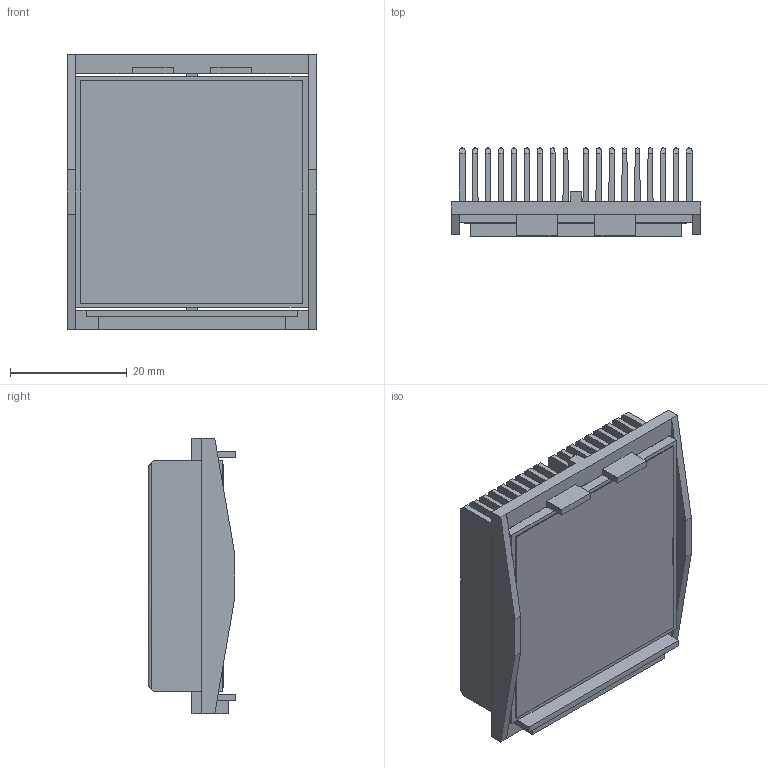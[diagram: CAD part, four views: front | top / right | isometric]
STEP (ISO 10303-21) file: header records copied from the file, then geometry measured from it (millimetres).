
FILE_DESCRIPTION (( 'STEP AP214' ), '1' );
FILE_NAME ('INL40001-13-1.7Y.STEP', '2023-03-01T17:13:28', ( '' ), ( '' ), 'SwSTEP 2.0', 'SolidWorks 2020', '' );
FILE_SCHEMA (( 'AUTOMOTIVE_DESIGN' ));
Length unit declared in the file: millimetre
Products named in the file (1): INL40001-13-1.7Y
Bounding box: 42.7 x 15 x 47.1 mm (x, y, z)
Volume: 11482.4 mm3; surface area: 24453.4 mm2
Topology: 3 solids, 3 shells, 198 faces, 578 edges, 384 vertices
Faces by surface type: plane 146, cylinder 52
Entity records: 8712 total; most frequent: CARTESIAN_POINT 1269, ORIENTED_EDGE 1156, DIRECTION 1008, EDGE_CURVE 578, LINE 474, VECTOR 474, VERTEX_POINT 384, AXIS2_PLACEMENT_3D 267
